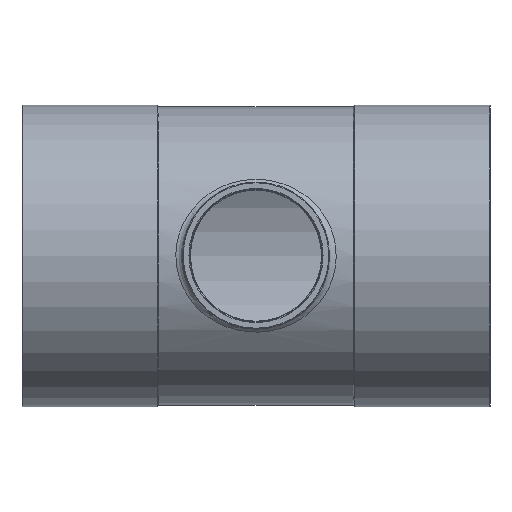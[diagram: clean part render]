
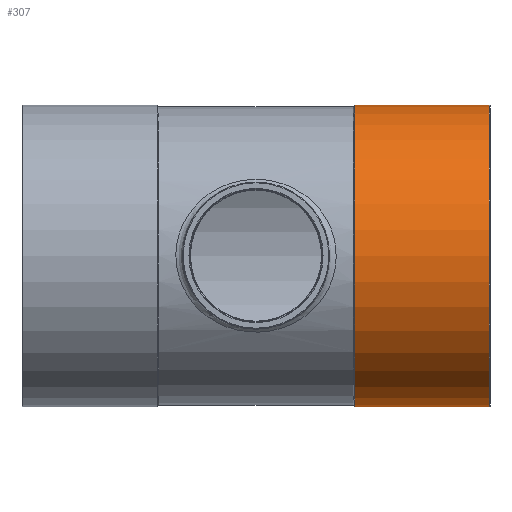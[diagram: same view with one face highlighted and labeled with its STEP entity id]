
A CAD part, top view. The second image highlights one B-rep face of the part: STEP entity #307.
In plain terms, the highlighted cylindrical face has radius 40 mm (diameter 80 mm), a partial arc.
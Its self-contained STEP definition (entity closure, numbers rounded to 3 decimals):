
#135=CARTESIAN_POINT('',(26.213,40.0,0.0));
#136=VERTEX_POINT('',#135);
#152=CARTESIAN_POINT('',(26.213,-40.0,0.));
#153=VERTEX_POINT('',#152);
#160=CARTESIAN_POINT('',(26.213,0.0,0.0));
#161=DIRECTION('',(1.0,0.0,0.0));
#162=DIRECTION('',(0.0,1.0,0.0));
#163=AXIS2_PLACEMENT_3D('',#160,#161,#162);
#164=CIRCLE('',#163,40.0);
#165=EDGE_CURVE('',#136,#153,#164,.T.);
#276=CARTESIAN_POINT('',(44.106,0.0,0.0));
#277=DIRECTION('',(1.0,0.0,0.0));
#278=DIRECTION('',(0.0,1.0,0.0));
#279=AXIS2_PLACEMENT_3D('',#276,#277,#278);
#280=CYLINDRICAL_SURFACE('',#279,40.0);
#281=CARTESIAN_POINT('',(61.8,40.0,0.));
#282=VERTEX_POINT('',#281);
#283=CARTESIAN_POINT('',(26.213,40.0,0.0));
#284=DIRECTION('',(1.0,0.0,0.0));
#285=VECTOR('',#284,35.587);
#286=LINE('',#283,#285);
#287=EDGE_CURVE('',#136,#282,#286,.T.);
#288=ORIENTED_EDGE('',*,*,#287,.F.);
#289=ORIENTED_EDGE('',*,*,#165,.T.);
#290=CARTESIAN_POINT('',(61.8,-40.0,0.));
#291=VERTEX_POINT('',#290);
#292=CARTESIAN_POINT('',(61.8,-40.0,0.));
#293=DIRECTION('',(-1.0,0.0,0.0));
#294=VECTOR('',#293,35.587);
#295=LINE('',#292,#294);
#296=EDGE_CURVE('',#291,#153,#295,.T.);
#297=ORIENTED_EDGE('',*,*,#296,.F.);
#298=CARTESIAN_POINT('',(61.8,0.0,0.0));
#299=DIRECTION('',(1.0,0.0,0.0));
#300=DIRECTION('',(0.0,-1.0,0.0));
#301=AXIS2_PLACEMENT_3D('',#298,#299,#300);
#302=CIRCLE('',#301,40.0);
#303=EDGE_CURVE('',#282,#291,#302,.T.);
#304=ORIENTED_EDGE('',*,*,#303,.F.);
#305=EDGE_LOOP('',(#288,#289,#297,#304));
#306=FACE_OUTER_BOUND('',#305,.T.);
#307=ADVANCED_FACE('',(#306),#280,.T.);
